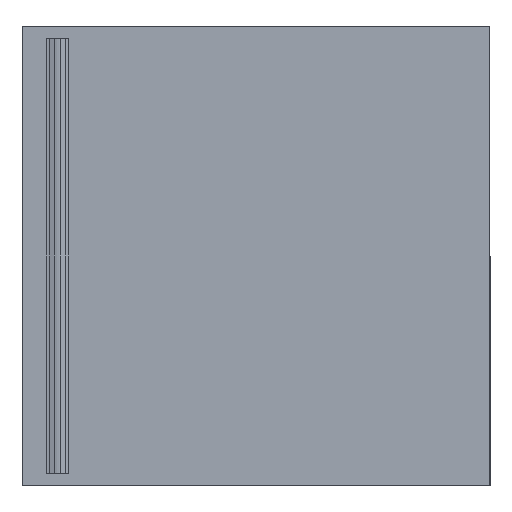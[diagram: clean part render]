
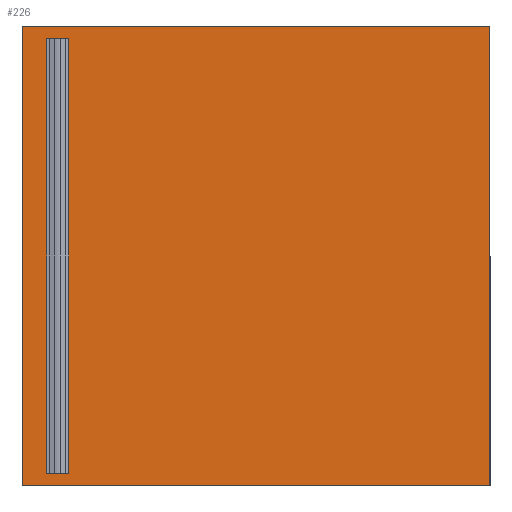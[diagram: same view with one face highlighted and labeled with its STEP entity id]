
A CAD part, front view. The second image highlights one B-rep face of the part: STEP entity #226.
In plain terms, the highlighted planar face has unit normal (0, -1, 0).
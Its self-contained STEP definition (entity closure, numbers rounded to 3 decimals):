
#7 = DIRECTION ( 'NONE',  ( -1., 0., 0. ) ) ;
#11 = LINE ( 'NONE', #328, #239 ) ;
#12 = LINE ( 'NONE', #302, #71 ) ;
#31 = EDGE_LOOP ( 'NONE', ( #212, #247, #268, #243 ) ) ;
#33 = VERTEX_POINT ( 'NONE', #295 ) ;
#37 = LINE ( 'NONE', #286, #372 ) ;
#46 = VECTOR ( 'NONE', #273, 1000. ) ;
#50 = FACE_OUTER_BOUND ( 'NONE', #31, .T. ) ;
#64 = LINE ( 'NONE', #342, #126 ) ;
#68 = VERTEX_POINT ( 'NONE', #80 ) ;
#71 = VECTOR ( 'NONE', #396, 1000. ) ;
#73 = EDGE_CURVE ( 'NONE', #89, #264, #386, .T. ) ;
#80 = CARTESIAN_POINT ( 'NONE',  ( -46.2, 0., -18.35 ) ) ;
#89 = VERTEX_POINT ( 'NONE', #189 ) ;
#99 = AXIS2_PLACEMENT_3D ( 'NONE', #432, #297, #155 ) ;
#100 = CARTESIAN_POINT ( 'NONE',  ( -46.2, 0., -17.35 ) ) ;
#102 = EDGE_CURVE ( 'NONE', #448, #68, #37, .T. ) ;
#126 = VECTOR ( 'NONE', #439, 1000. ) ;
#151 = EDGE_CURVE ( 'NONE', #359, #33, #11, .T. ) ;
#155 = DIRECTION ( 'NONE',  ( 0., 0., 1. ) ) ;
#158 = ORIENTED_EDGE ( 'NONE', *, *, #151, .T. ) ;
#159 = DIRECTION ( 'NONE',  ( 1., 0., 0. ) ) ;
#165 = LINE ( 'NONE', #325, #428 ) ;
#166 = EDGE_CURVE ( 'NONE', #33, #89, #165, .T. ) ;
#179 = ORIENTED_EDGE ( 'NONE', *, *, #367, .T. ) ;
#189 = CARTESIAN_POINT ( 'NONE',  ( -42.468, 0., 17.35 ) ) ;
#194 = PLANE ( 'NONE',  #99 ) ;
#212 = ORIENTED_EDGE ( 'NONE', *, *, #102, .F. ) ;
#226 = ADVANCED_FACE ( 'NONE', ( #368, #50 ), #194, .F. ) ;
#229 = DIRECTION ( 'NONE',  ( 0., 0., 1. ) ) ;
#234 = EDGE_CURVE ( 'NONE', #272, #409, #12, .T. ) ;
#238 = CARTESIAN_POINT ( 'NONE',  ( -46.2, 0., 18.35 ) ) ;
#239 = VECTOR ( 'NONE', #229, 1000. ) ;
#242 = DIRECTION ( 'NONE',  ( -1., 0., 0. ) ) ;
#243 = ORIENTED_EDGE ( 'NONE', *, *, #294, .F. ) ;
#247 = ORIENTED_EDGE ( 'NONE', *, *, #312, .T. ) ;
#251 = CARTESIAN_POINT ( 'NONE',  ( -8.8, 0., -18.35 ) ) ;
#258 = CARTESIAN_POINT ( 'NONE',  ( -42.468, 0., 0. ) ) ;
#264 = VERTEX_POINT ( 'NONE', #434 ) ;
#268 = ORIENTED_EDGE ( 'NONE', *, *, #234, .F. ) ;
#272 = VERTEX_POINT ( 'NONE', #238 ) ;
#273 = DIRECTION ( 'NONE',  ( 0., 0., 1. ) ) ;
#284 = VECTOR ( 'NONE', #242, 1000. ) ;
#286 = CARTESIAN_POINT ( 'NONE',  ( -46.2, 0., -18.35 ) ) ;
#294 = EDGE_CURVE ( 'NONE', #68, #272, #64, .T. ) ;
#295 = CARTESIAN_POINT ( 'NONE',  ( -44.232, 0., 17.35 ) ) ;
#297 = DIRECTION ( 'NONE',  ( 0., 1., 0. ) ) ;
#302 = CARTESIAN_POINT ( 'NONE',  ( -46.2, 0., 18.35 ) ) ;
#312 = EDGE_CURVE ( 'NONE', #448, #409, #375, .T. ) ;
#325 = CARTESIAN_POINT ( 'NONE',  ( -46.2, 0., 17.35 ) ) ;
#328 = CARTESIAN_POINT ( 'NONE',  ( -44.232, 0., 0. ) ) ;
#341 = ORIENTED_EDGE ( 'NONE', *, *, #166, .T. ) ;
#342 = CARTESIAN_POINT ( 'NONE',  ( -46.2, 0., -18.35 ) ) ;
#359 = VERTEX_POINT ( 'NONE', #442 ) ;
#367 = EDGE_CURVE ( 'NONE', #264, #359, #403, .T. ) ;
#368 = FACE_BOUND ( 'NONE', #415, .T. ) ;
#369 = CARTESIAN_POINT ( 'NONE',  ( -8.8, 0., 0. ) ) ;
#372 = VECTOR ( 'NONE', #7, 1000. ) ;
#375 = LINE ( 'NONE', #369, #46 ) ;
#386 = LINE ( 'NONE', #258, #413 ) ;
#395 = ORIENTED_EDGE ( 'NONE', *, *, #73, .T. ) ;
#396 = DIRECTION ( 'NONE',  ( 1., 0., 0. ) ) ;
#403 = LINE ( 'NONE', #100, #284 ) ;
#409 = VERTEX_POINT ( 'NONE', #447 ) ;
#413 = VECTOR ( 'NONE', #450, 1000. ) ;
#415 = EDGE_LOOP ( 'NONE', ( #341, #395, #179, #158 ) ) ;
#428 = VECTOR ( 'NONE', #159, 1000. ) ;
#432 = CARTESIAN_POINT ( 'NONE',  ( 0., 0., 0. ) ) ;
#434 = CARTESIAN_POINT ( 'NONE',  ( -42.468, 0., -17.35 ) ) ;
#439 = DIRECTION ( 'NONE',  ( 0., 0., 1. ) ) ;
#442 = CARTESIAN_POINT ( 'NONE',  ( -44.232, 0., -17.35 ) ) ;
#447 = CARTESIAN_POINT ( 'NONE',  ( -8.8, 0., 18.35 ) ) ;
#448 = VERTEX_POINT ( 'NONE', #251 ) ;
#450 = DIRECTION ( 'NONE',  ( 0., 0., -1. ) ) ;
